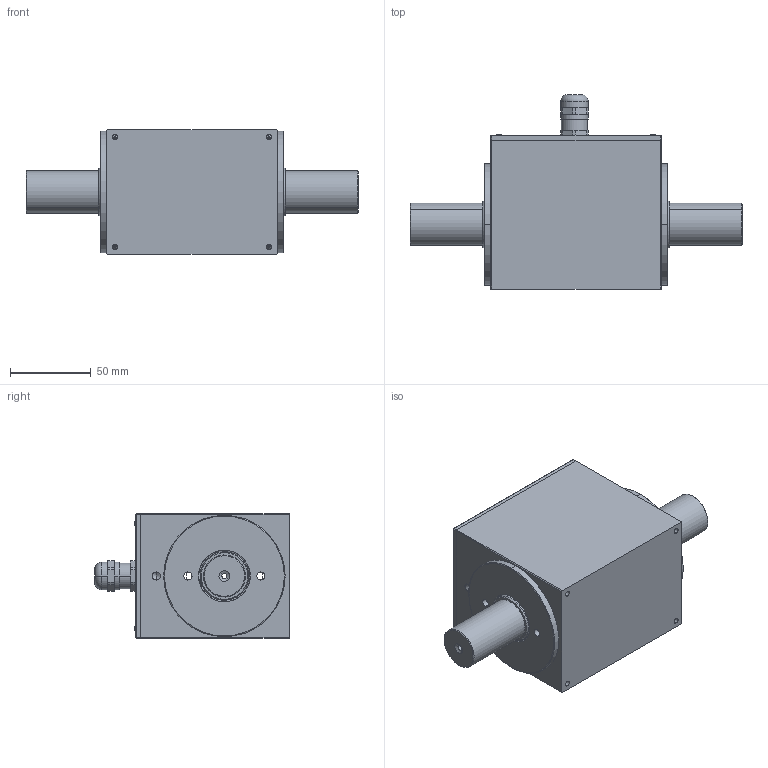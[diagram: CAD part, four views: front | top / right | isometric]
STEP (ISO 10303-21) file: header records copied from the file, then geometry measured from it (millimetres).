
FILE_DESCRIPTION (( 'STEP AP203' ), '1' );
FILE_NAME ('DRWPL-III.STEP', '2010-07-05T11:37:01', ( 'ETH' ), ( '' ), 'SwSTEP 2.0', 'SolidWorks 2010', '' );
FILE_SCHEMA (( 'CONFIG_CONTROL_DESIGN' ));
Length unit declared in the file: millimetre
Products named in the file (1): DRWPL-III
Bounding box: 205 x 120 x 77 mm (x, y, z)
Surface area: 71719.8 mm2 (no closed solid volume)
Topology: 0 solids, 17 shells, 197 faces, 544 edges, 355 vertices
Faces by surface type: plane 103, cylinder 48, cone 34, sphere 8, torus 4
Entity records: 6273 total; most frequent: DIRECTION 1172, CARTESIAN_POINT 1095, ORIENTED_EDGE 892, EDGE_CURVE 542, AXIS2_PLACEMENT_3D 432, VERTEX_POINT 355, LINE 308, VECTOR 308
